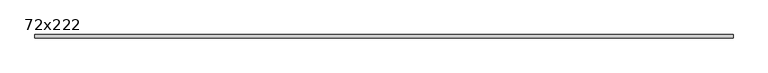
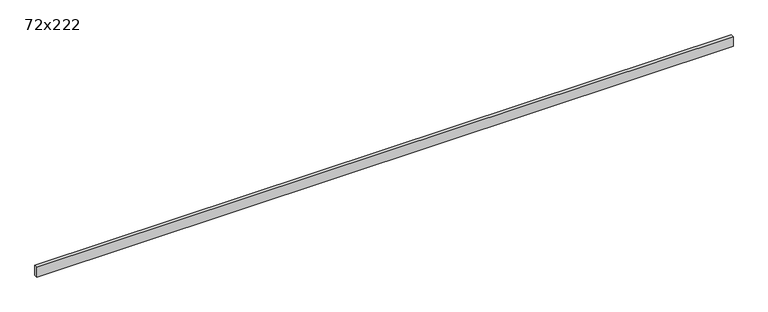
"""IFC4 building model written with IfcOpenShell, lengths in millimetres: beam geometry, C&L poutre bois : 72x222."""

from ifc_helpers import new_model, si_unit, frame, origin, place, context, project, spatial, polyline, outline, extrude, source, transform, mapped, element, save


def beam_72x222_bd68802b(model_context):
    return source(origin(), model_context, "Body", "SweptSolid", [
        extrude(outline(polyline([(7642.1097794, -36.0), (-7642.1097794, -36.0), (-7642.1097794, 36.0), (7642.1097794, 36.0), (7642.1097794, -36.0)])), frame((0.0, 0.0, -112.5), z_axis=(0.0, 0.0, 1.0), x_axis=(1.0, 0.0, 0.0)), (0.0, 0.0, 1.0), 225.0),
    ])


if __name__ == "__main__":
    model = new_model("IFC4")
    model_context = context("Model", 3, world=origin())
    ifc_project = project(units=[si_unit("LENGTHUNIT", "METRE", prefix="MILLI")], contexts=[model_context])
    site = spatial("IfcSite", under=ifc_project)
    building = spatial("IfcBuilding", under=site)
    placement = place(None, origin())
    beam_72x222_shape = beam_72x222_bd68802b(model_context)
    element("IfcBeam", 1, ObjectType="C&L poutre bois : 72x222", at=placement, inside=building, context=model_context, shape_type="MappedRepresentation", body=[
        mapped(beam_72x222_shape, transform((0.0, 0.0, 0.0), x_axis=(1.0, 0.0, 0.0), y_axis=(0.0, 1.0, 0.0), z_axis=(0.0, 0.0, 1.0))),
    ])
    save(model, "model.ifc")
